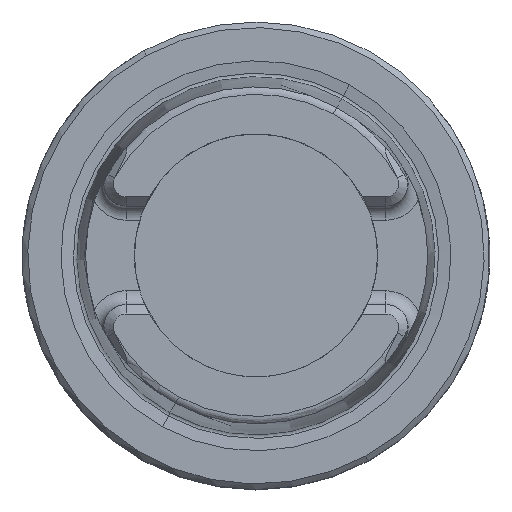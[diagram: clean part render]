
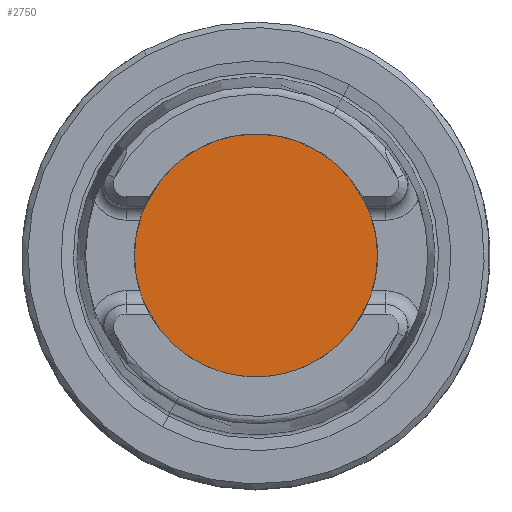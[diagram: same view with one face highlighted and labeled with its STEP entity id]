
A CAD part, top view. The second image highlights one B-rep face of the part: STEP entity #2750.
In plain terms, the highlighted planar face has unit normal (0, 0, 1).
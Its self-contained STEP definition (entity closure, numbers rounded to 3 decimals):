
#2730=AXIS2_PLACEMENT_3D('Plane Axis2P3D',#2727,#2728,#2729) ;
#2734=AXIS2_PLACEMENT_3D('Circle Axis2P3D',#2732,#2733,$) ;
#2743=AXIS2_PLACEMENT_3D('Circle Axis2P3D',#2741,#2742,$) ;
#2727=CARTESIAN_POINT('Axis2P3D Location',(0.,0.,14.5)) ;
#2732=CARTESIAN_POINT('Axis2P3D Location',(0.,0.,14.5)) ;
#2736=CARTESIAN_POINT('Vertex',(-13.,0.,14.5)) ;
#2738=CARTESIAN_POINT('Vertex',(13.,0.,14.5)) ;
#2741=CARTESIAN_POINT('Axis2P3D Location',(0.,0.,14.5)) ;
#2728=DIRECTION('Axis2P3D Direction',(0.,0.,1.)) ;
#2729=DIRECTION('Axis2P3D XDirection',(-1.,0.,0.)) ;
#2733=DIRECTION('Axis2P3D Direction',(0.,0.,1.)) ;
#2742=DIRECTION('Axis2P3D Direction',(0.,0.,1.)) ;
#2747=ORIENTED_EDGE('',*,*,#2740,.T.) ;
#2748=ORIENTED_EDGE('',*,*,#2745,.T.) ;
#2750=ADVANCED_FACE('NO_CUT',(#2749),#2731,.T.) ;
#2735=CIRCLE('generated circle',#2734,13.) ;
#2744=CIRCLE('generated circle',#2743,13.) ;
#2740=EDGE_CURVE('',#2737,#2739,#2735,.T.) ;
#2745=EDGE_CURVE('',#2739,#2737,#2744,.T.) ;
#2746=EDGE_LOOP('',(#2747,#2748)) ;
#2749=FACE_OUTER_BOUND('',#2746,.T.) ;
#2731=PLANE('Plane',#2730) ;
#2737=VERTEX_POINT('',#2736) ;
#2739=VERTEX_POINT('',#2738) ;
